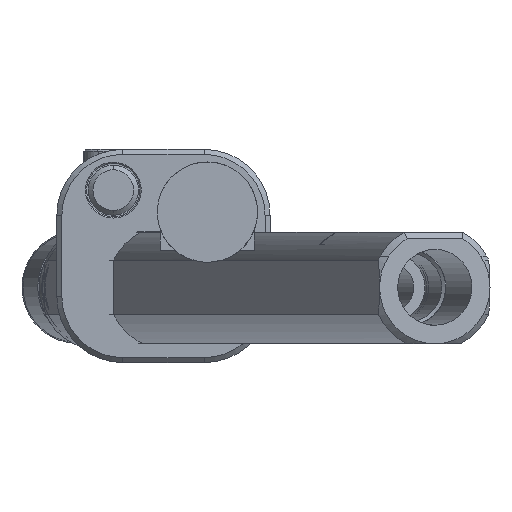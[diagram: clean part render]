
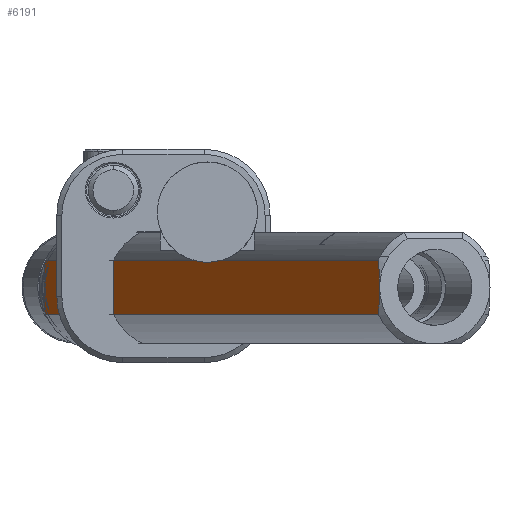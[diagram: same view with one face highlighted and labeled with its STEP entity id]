
A CAD part, front view. The second image highlights one B-rep face of the part: STEP entity #6191.
In plain terms, the highlighted planar face has unit normal (-0.978, -0.208, 0) as drawn and (1, 0, 0) by its records, which use the part's own axes.
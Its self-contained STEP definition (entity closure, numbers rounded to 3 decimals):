
#112 = CARTESIAN_POINT ( 'NONE',  ( 9., 256.856, 3.49 ) ) ;
#168 = ORIENTED_EDGE ( 'NONE', *, *, #1248, .F. ) ;
#211 = CARTESIAN_POINT ( 'NONE',  ( 9., 0., -0.755 ) ) ;
#224 = LINE ( 'NONE', #2950, #7240 ) ;
#267 = B_SPLINE_CURVE_WITH_KNOTS ( 'NONE', 3,
 ( #5382, #8057, #2022, #5016 ),
 .UNSPECIFIED., .F., .F.,
 ( 4, 4 ),
 ( 0.027, 0.029 ),
 .UNSPECIFIED. ) ;
#347 = DIRECTION ( 'NONE',  ( 0., 0., -1. ) ) ;
#478 = DIRECTION ( 'NONE',  ( 1., 0., 0. ) ) ;
#515 = CARTESIAN_POINT ( 'NONE',  ( 9., 257., -3.041 ) ) ;
#595 = CARTESIAN_POINT ( 'NONE',  ( 9., 257.008, 0.895 ) ) ;
#610 = VERTEX_POINT ( 'NONE', #6258 ) ;
#620 = DIRECTION ( 'NONE',  ( 0., 0., -1. ) ) ;
#799 = AXIS2_PLACEMENT_3D ( 'NONE', #1943, #478, #620 ) ;
#806 = CARTESIAN_POINT ( 'NONE',  ( 9., 0., 0. ) ) ;
#915 = ORIENTED_EDGE ( 'NONE', *, *, #3466, .T. ) ;
#1027 = EDGE_CURVE ( 'NONE', #610, #1887, #1805, .T. ) ;
#1057 = EDGE_CURVE ( 'NONE', #6648, #6770, #2894, .T. ) ;
#1088 = CARTESIAN_POINT ( 'NONE',  ( 9., 257.021, -0.452 ) ) ;
#1248 = EDGE_CURVE ( 'NONE', #4863, #2756, #6074, .T. ) ;
#1353 = EDGE_CURVE ( 'NONE', #6648, #4863, #2136, .T. ) ;
#1570 = VERTEX_POINT ( 'NONE', #515 ) ;
#1715 = ORIENTED_EDGE ( 'NONE', *, *, #6650, .F. ) ;
#1736 = LINE ( 'NONE', #4433, #5495 ) ;
#1795 = EDGE_CURVE ( 'NONE', #610, #4517, #224, .T. ) ;
#1805 = B_SPLINE_CURVE_WITH_KNOTS ( 'NONE', 3,
 ( #6845, #2318, #4129, #4210, #6807, #3476, #211, #806 ),
 .UNSPECIFIED., .F., .F.,
 ( 4, 2, 2, 4 ),
 ( 0.003, 0.004, 0.005, 0.007 ),
 .UNSPECIFIED. ) ;
#1887 = VERTEX_POINT ( 'NONE', #8590 ) ;
#1943 = CARTESIAN_POINT ( 'NONE',  ( 9., 0., 20. ) ) ;
#2022 = CARTESIAN_POINT ( 'NONE',  ( 9., 256.687, -3.93 ) ) ;
#2136 = B_SPLINE_CURVE_WITH_KNOTS ( 'NONE', 3,
 ( #5578, #4861, #112, #7498 ),
 .UNSPECIFIED., .F., .F.,
 ( 4, 4 ),
 ( 0.02, 0.021 ),
 .UNSPECIFIED. ) ;
#2196 = CARTESIAN_POINT ( 'NONE',  ( 9., 257., 0. ) ) ;
#2286 = CARTESIAN_POINT ( 'NONE',  ( 9., 257., 3.041 ) ) ;
#2318 = CARTESIAN_POINT ( 'NONE',  ( 9., 0.851, -4.017 ) ) ;
#2663 = ORIENTED_EDGE ( 'NONE', *, *, #1795, .T. ) ;
#2701 = CARTESIAN_POINT ( 'NONE',  ( 9., 257., 1.345 ) ) ;
#2756 = VERTEX_POINT ( 'NONE', #2701 ) ;
#2894 = LINE ( 'NONE', #7604, #4689 ) ;
#2934 = DIRECTION ( 'NONE',  ( 0., -1., 0. ) ) ;
#2950 = CARTESIAN_POINT ( 'NONE',  ( 9., 275., -4.359 ) ) ;
#3137 = CARTESIAN_POINT ( 'NONE',  ( 9., 256.5, -4.359 ) ) ;
#3140 = CARTESIAN_POINT ( 'NONE',  ( 9., 0.116, 1.499 ) ) ;
#3226 = CARTESIAN_POINT ( 'NONE',  ( 9., 0.024, 0.756 ) ) ;
#3466 = EDGE_CURVE ( 'NONE', #8462, #2756, #8019, .T. ) ;
#3476 = CARTESIAN_POINT ( 'NONE',  ( 9., 0.096, -1.498 ) ) ;
#3759 = CARTESIAN_POINT ( 'NONE',  ( 9., 1., 4.359 ) ) ;
#3855 = ORIENTED_EDGE ( 'NONE', *, *, #7435, .F. ) ;
#3879 = CARTESIAN_POINT ( 'NONE',  ( 9., 0.701, 3.674 ) ) ;
#4018 = ORIENTED_EDGE ( 'NONE', *, *, #1057, .T. ) ;
#4019 = ORIENTED_EDGE ( 'NONE', *, *, #6846, .F. ) ;
#4129 = CARTESIAN_POINT ( 'NONE',  ( 9., 0.713, -3.669 ) ) ;
#4210 = CARTESIAN_POINT ( 'NONE',  ( 9., 0.469, -2.96 ) ) ;
#4433 = CARTESIAN_POINT ( 'NONE',  ( 9., 257., 0. ) ) ;
#4517 = VERTEX_POINT ( 'NONE', #3137 ) ;
#4585 = CARTESIAN_POINT ( 'NONE',  ( 9., 257.008, -0.899 ) ) ;
#4590 = CARTESIAN_POINT ( 'NONE',  ( 9., 256.5, 4.359 ) ) ;
#4689 = VECTOR ( 'NONE', #2934, 1000. ) ;
#4861 = CARTESIAN_POINT ( 'NONE',  ( 9., 256.688, 3.929 ) ) ;
#4863 = VERTEX_POINT ( 'NONE', #2286 ) ;
#5016 = CARTESIAN_POINT ( 'NONE',  ( 9., 256.5, -4.359 ) ) ;
#5199 = CARTESIAN_POINT ( 'NONE',  ( 9., 0.447, 2.957 ) ) ;
#5295 = CARTESIAN_POINT ( 'NONE',  ( 9., 0., 0. ) ) ;
#5382 = CARTESIAN_POINT ( 'NONE',  ( 9., 257., -3.041 ) ) ;
#5495 = VECTOR ( 'NONE', #347, 1000. ) ;
#5578 = CARTESIAN_POINT ( 'NONE',  ( 9., 256.5, 4.359 ) ) ;
#5651 = DIRECTION ( 'NONE',  ( 0., 1., 0. ) ) ;
#5837 = CARTESIAN_POINT ( 'NONE',  ( 9., 0.185, 1.866 ) ) ;
#5850 = FACE_OUTER_BOUND ( 'NONE', #8292, .T. ) ;
#5913 = CARTESIAN_POINT ( 'NONE',  ( 9., 257.027, 0.218 ) ) ;
#5961 = CARTESIAN_POINT ( 'NONE',  ( 9., 257., -1.345 ) ) ;
#6074 = LINE ( 'NONE', #2196, #7223 ) ;
#6191 = ADVANCED_FACE ( 'NONE', ( #5850 ), #6526, .T. ) ;
#6258 = CARTESIAN_POINT ( 'NONE',  ( 9., 1., -4.359 ) ) ;
#6526 = PLANE ( 'NONE',  #799 ) ;
#6549 = CARTESIAN_POINT ( 'NONE',  ( 9., 257., 1.12 ) ) ;
#6588 = CARTESIAN_POINT ( 'NONE',  ( 9., 257.027, -0.229 ) ) ;
#6596 = CARTESIAN_POINT ( 'NONE',  ( 9., 0., 0.378 ) ) ;
#6635 = CARTESIAN_POINT ( 'NONE',  ( 9., 257., -1.122 ) ) ;
#6648 = VERTEX_POINT ( 'NONE', #4590 ) ;
#6650 = EDGE_CURVE ( 'NONE', #1887, #6770, #7821, .T. ) ;
#6770 = VERTEX_POINT ( 'NONE', #8137 ) ;
#6772 = ORIENTED_EDGE ( 'NONE', *, *, #1027, .F. ) ;
#6807 = CARTESIAN_POINT ( 'NONE',  ( 9., 0.361, -2.597 ) ) ;
#6845 = CARTESIAN_POINT ( 'NONE',  ( 9., 1., -4.359 ) ) ;
#6846 = EDGE_CURVE ( 'NONE', #1570, #4517, #267, .T. ) ;
#7223 = VECTOR ( 'NONE', #8132, 1000. ) ;
#7240 = VECTOR ( 'NONE', #5651, 1000. ) ;
#7435 = EDGE_CURVE ( 'NONE', #8462, #1570, #1736, .T. ) ;
#7498 = CARTESIAN_POINT ( 'NONE',  ( 9., 257., 3.041 ) ) ;
#7604 = CARTESIAN_POINT ( 'NONE',  ( 9., 275., 4.359 ) ) ;
#7660 = ORIENTED_EDGE ( 'NONE', *, *, #1353, .F. ) ;
#7821 = B_SPLINE_CURVE_WITH_KNOTS ( 'NONE', 3,
 ( #5295, #6596, #3226, #3140, #5837, #5199, #3879, #3759 ),
 .UNSPECIFIED., .F., .F.,
 ( 4, 2, 2, 4 ),
 ( 0.007, 0.008, 0.01, 0.012 ),
 .UNSPECIFIED. ) ;
#7829 = CARTESIAN_POINT ( 'NONE',  ( 9., 257., 1.345 ) ) ;
#7968 = CARTESIAN_POINT ( 'NONE',  ( 9., 257.021, 0.445 ) ) ;
#8019 = B_SPLINE_CURVE_WITH_KNOTS ( 'NONE', 3,
 ( #5961, #6635, #4585, #1088, #6588, #5913, #7968, #595, #6549, #7829 ),
 .UNSPECIFIED., .F., .F.,
 ( 4, 2, 2, 2, 4 ),
 ( 0.008, 0.009, 0.01, 0.01, 0.011 ),
 .UNSPECIFIED. ) ;
#8057 = CARTESIAN_POINT ( 'NONE',  ( 9., 256.857, -3.488 ) ) ;
#8132 = DIRECTION ( 'NONE',  ( 0., 0., -1. ) ) ;
#8137 = CARTESIAN_POINT ( 'NONE',  ( 9., 1., 4.359 ) ) ;
#8266 = CARTESIAN_POINT ( 'NONE',  ( 9., 257., -1.345 ) ) ;
#8292 = EDGE_LOOP ( 'NONE', ( #4018, #1715, #6772, #2663, #4019, #3855, #915, #168, #7660 ) ) ;
#8462 = VERTEX_POINT ( 'NONE', #8266 ) ;
#8590 = CARTESIAN_POINT ( 'NONE',  ( 9., 0., 0. ) ) ;
